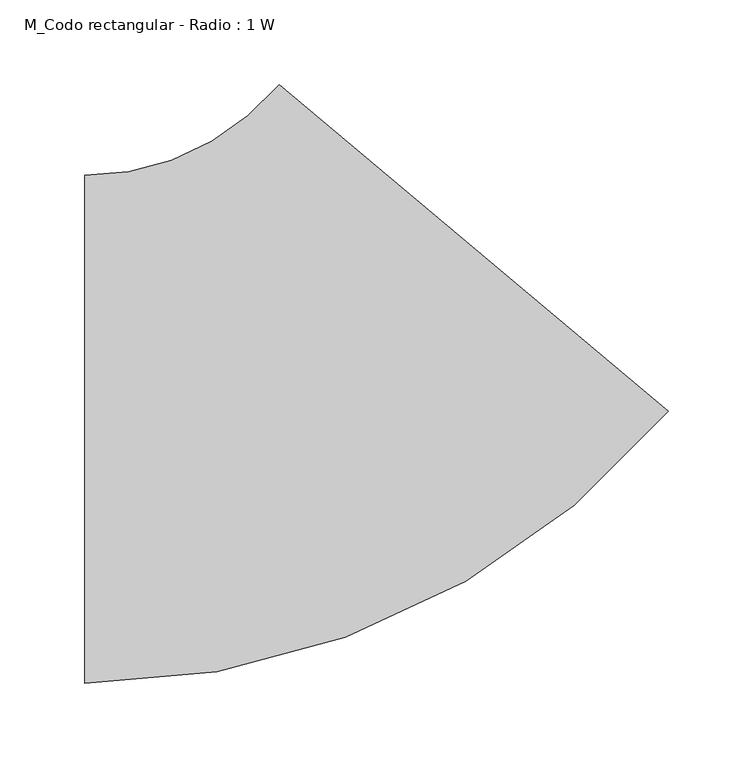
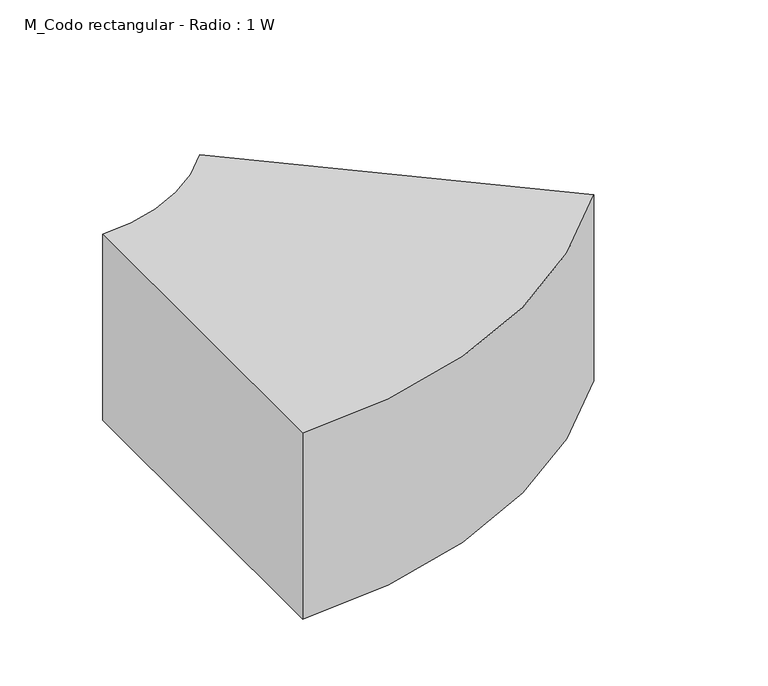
"""IFC4 building model written with IfcOpenShell, lengths in millimetres: duct fitting geometry, M_Codo rectangular - Radio : 1 W."""

from ifc_helpers import new_model, si_unit, point, frame, frame_2d, origin, place, context, project, spatial, polyline, circle_curve, trimmed, segment, composite_curve, outline, extrude, source, transform, mapped, element, save


def m_codo_rectangular_radio_1_w_e0375952(model_context):
    return source(origin(), model_context, "Body", "SweptSolid", [
        extrude(outline(composite_curve([segment(trimmed(circle_curve(frame_2d((-139.8922974, 300.0)), 450.0), [point((204.827702, 10.7455756))], [point((-139.8922974, -150.0))], False, "CARTESIAN"), True, "CONTINUOUS"), segment(polyline([(-139.8922974, -150.0), (-139.8922974, 150.0)]), True, "CONTINUOUS"), segment(trimmed(circle_curve(frame_2d((-139.8922974, 300.0)), 150.0), [point((-139.8922974, 150.0))], [point((-24.985631, 203.5818585))], True, "CARTESIAN"), True, "CONTINUOUS"), segment(polyline([(-24.985631, 203.5818585), (204.827702, 10.7455756)]), True, "CONTINUOUS")], self_intersect=False)), frame((0.0, 0.0, -85.0), z_axis=(0.0, 0.0, 1.0), x_axis=(1.0, 0.0, 0.0)), (0.0, 0.0, 1.0), 170.0),
    ])


if __name__ == "__main__":
    model = new_model("IFC4")
    model_context = context("Model", 3, world=origin())
    ifc_project = project(units=[si_unit("LENGTHUNIT", "METRE", prefix="MILLI")], contexts=[model_context])
    site = spatial("IfcSite", under=ifc_project)
    building = spatial("IfcBuilding", under=site)
    placement = place(None, origin())
    m_codo_rectangular_radio_1_w_shape = m_codo_rectangular_radio_1_w_e0375952(model_context)
    element("IfcDuctFitting", 1, ObjectType="M_Codo rectangular - Radio : 1 W", at=placement, inside=building, context=model_context, shape_type="MappedRepresentation", body=[
        mapped(m_codo_rectangular_radio_1_w_shape, transform((0.0, 0.0, 0.0), x_axis=(1.0, 0.0, 0.0), y_axis=(0.0, 1.0, 0.0), z_axis=(0.0, 0.0, 1.0))),
    ])
    save(model, "model.ifc")
